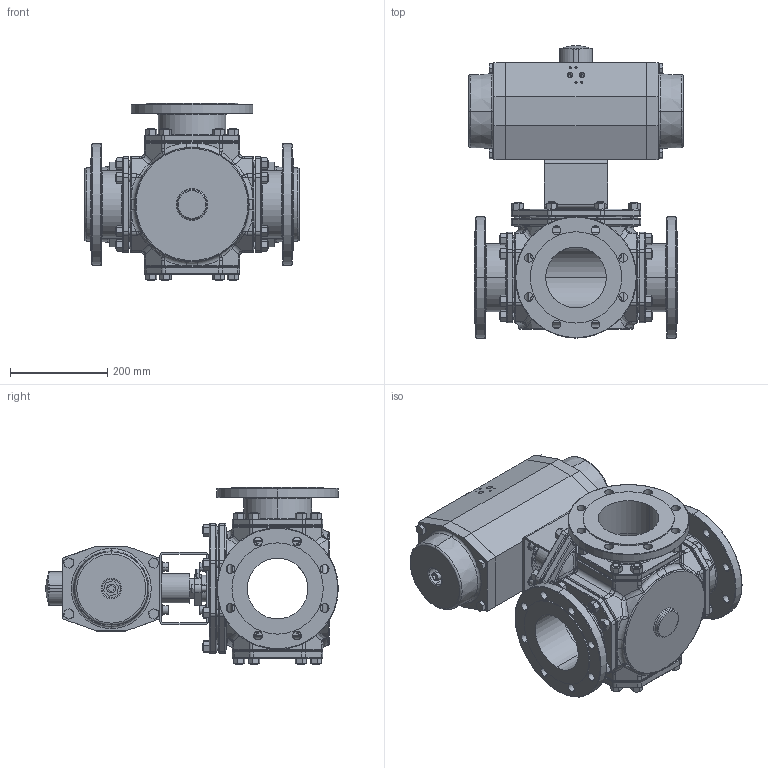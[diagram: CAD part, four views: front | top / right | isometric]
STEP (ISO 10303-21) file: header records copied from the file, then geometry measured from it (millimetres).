
FILE_DESCRIPTION (( 'STEP AP214' ), '1' );
FILE_NAME ('S316F-DN125 + AP6.STEP', '2020-10-27T15:19:22', ( '' ), ( '' ), 'SwSTEP 2.0', 'SolidWorks 2018', '' );
FILE_SCHEMA (( 'AUTOMOTIVE_DESIGN' ));
Length unit declared in the file: millimetre
Products named in the file (16): AP6-T-Poort_Default<As Machined>; socket head cap screw_iso_ISO 4762 M12 x 20 --- 20N; S316F Flange end DN 125; S316F Borgring as vk28 - DN150; hex bolt gradeab_din_ISO 4014 - M12 x 50 x 50-N; S316F Pakkingdrukker DN125; S316F Eindaanslag DN125; S316F-DN125 + AP6; S316F Body DN125 BS; YA2728D6082K100; YB150100F12F12-5; curved spring lock washer_din_Spring washer DIN 128 - A12; S316F-DN125 BS; S316F Draadeind M14; S316F Blind Flange end DN 125; Moer M14
Assembly tree (110 placements, depth 3):
  S316F-DN125 + AP6
    S316F-DN125 BS
      S316F Body DN125 BS
      S316F Flange end DN 125  x3
      S316F Blind Flange end DN 125
      S316F Pakkingdrukker DN125
      hex bolt gradeab_din_ISO 4014 - M12 x 50 x 50-N  x2
      S316F Draadeind M14  x40
      Moer M14  x40
      S316F Eindaanslag DN125
      S316F Borgring as vk28 - DN150
    YB150100F12F12-5
    socket head cap screw_iso_ISO 4762 M12 x 20 --- 20N  x8
    curved spring lock washer_din_Spring washer DIN 128 - A12  x8
    YA2728D6082K100
    AP6-T-Poort_Default<As Machined>
Bounding box: 442 x 602.4 x 366.5 mm (x, y, z)
Volume: 27867350.9 mm3; surface area: 2070242.3 mm2
Topology: 120 solids, 120 shells, 2727 faces, 6387 edges, 3875 vertices
Faces by surface type: plane 993, cylinder 882, cone 484, torus 254, bspline 104, sphere 10
Entity records: 46313 total; most frequent: CARTESIAN_POINT 11005, DIRECTION 7215, ORIENTED_EDGE 6414, EDGE_CURVE 3207, AXIS2_PLACEMENT_3D 2860, VERTEX_POINT 1966, EDGE_LOOP 1593, VECTOR 1495
